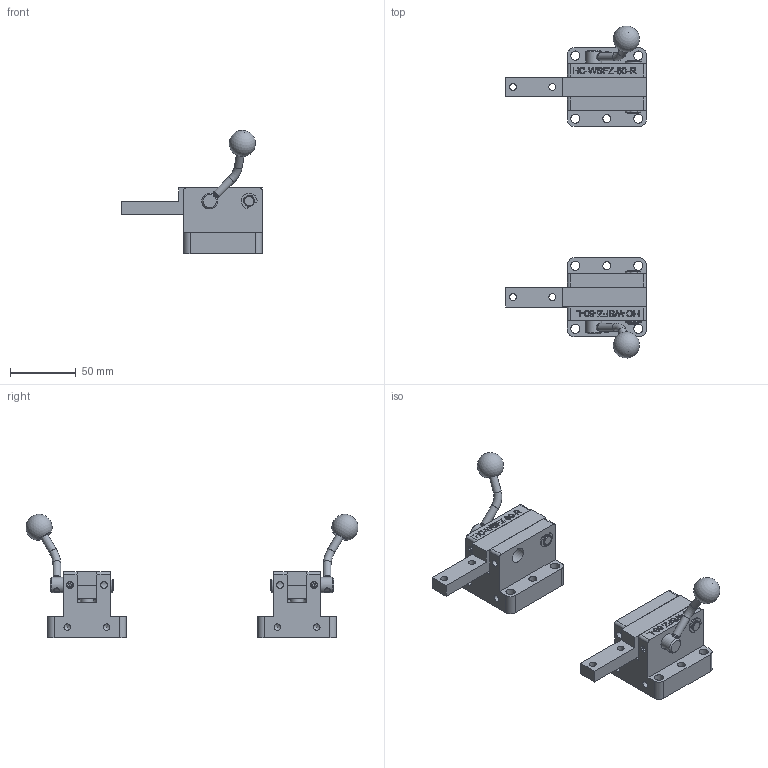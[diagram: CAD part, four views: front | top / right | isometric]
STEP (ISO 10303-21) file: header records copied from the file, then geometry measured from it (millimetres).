
FILE_DESCRIPTION(/* description */ (''),/* implementation_level */ '2;1');
FILE_NAME(/* name */ 'HC-WSFZ-60.stp',/* time_stamp */ '2018-06-27T11:30:27+08:00',/* author */ (''),/* organization */ (''),/* preprocessor_version */ 'ST-DEVELOPER v16',/* originating_system */ 'SIEMENS PLM Software NX 11.0',/* authorisation */ '');
FILE_SCHEMA (('AUTOMOTIVE_DESIGN { 1 0 10303 214 3 1 1 1 }'));
Length unit declared in the file: millimetre
Products named in the file (1): HC-WSFZ-60_stp
Bounding box: 107 x 252.81 x 93.87 mm (x, y, z)
Volume: 264802.6 mm3; surface area: 78975 mm2
Topology: 34 solids, 34 shells, 790 faces, 1957 edges, 1284 vertices
Faces by surface type: plane 417, cylinder 200, cone 74, extrusion 49, torus 26, bspline 16, sphere 8
Full cylindrical faces by diameter (mm): 2.4 x2, 2.458 x4, 2.459 x4, 2.5 x2, 2.675 x4, 3 x4, 3.2 x4, 4.9 x2, 5 x10, 5.2 x14, 5.35 x4, 6 x20, 7 x8, 8 x12, 10 x6, 12 x10
Entity records: 28757 total; most frequent: CARTESIAN_POINT 7173, DIRECTION 3450, ORIENTED_EDGE 3406, EDGE_CURVE 1703, AXIS2_PLACEMENT_3D 1236, VERTEX_POINT 1224, EDGE_LOOP 1101, VECTOR 978
